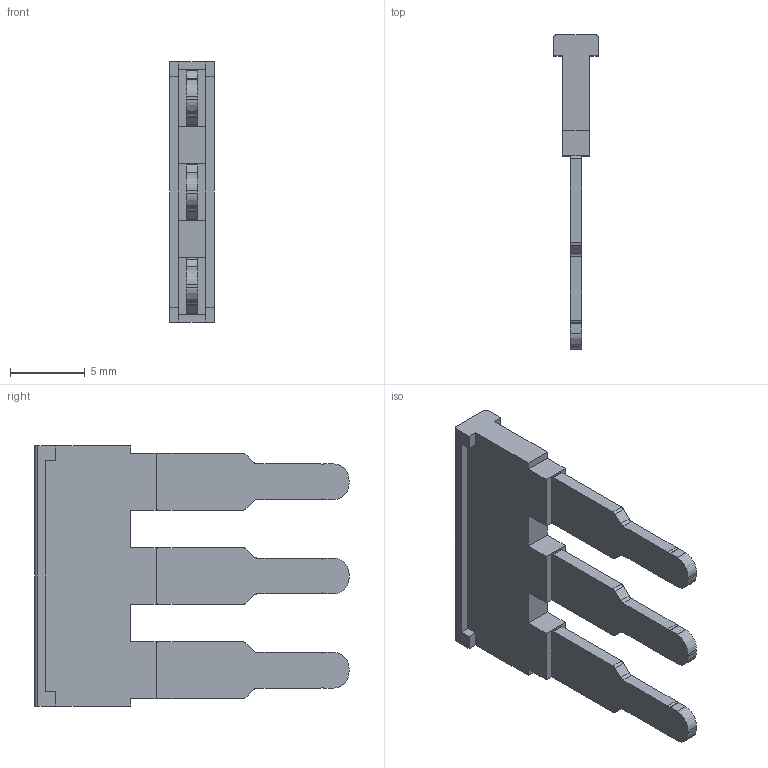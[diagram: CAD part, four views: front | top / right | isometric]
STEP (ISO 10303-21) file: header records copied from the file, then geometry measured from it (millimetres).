
FILE_DESCRIPTION(('Creo Elements/Direct Modeling STEP Export'),'2;1');
FILE_NAME('EFB0403R.stp','2019-07-26T14:39:08',(''),(''),'Creo Elements/Direct Modeling STEP processor for AP214 (Solid Model)','Creo Elements/Direct Modeling 20.1 10-Mar-2018 (C) Parametric Technology GmbH','');
FILE_SCHEMA(('AUTOMOTIVE_DESIGN { 1 0 10303 214 1 1 1 1 }'));
Length unit declared in the file: millimetre
Products named in the file (2): EFB0403R
Assembly tree (1 placements, depth 2):
  EFB0403R
    EFB0403R
Bounding box: 3 x 21.01 x 17.4 mm (x, y, z)
Volume: 345.4 mm3; surface area: 703.3 mm2
Topology: 1 solids, 1 shells, 113 faces, 324 edges, 216 vertices
Faces by surface type: plane 75, cylinder 26, extrusion 12
Entity records: 4138 total; most frequent: CARTESIAN_POINT 840, ORIENTED_EDGE 648, DIRECTION 558, EDGE_CURVE 324, VECTOR 258, LINE 246, VERTEX_POINT 216, AXIS2_PLACEMENT_3D 150
